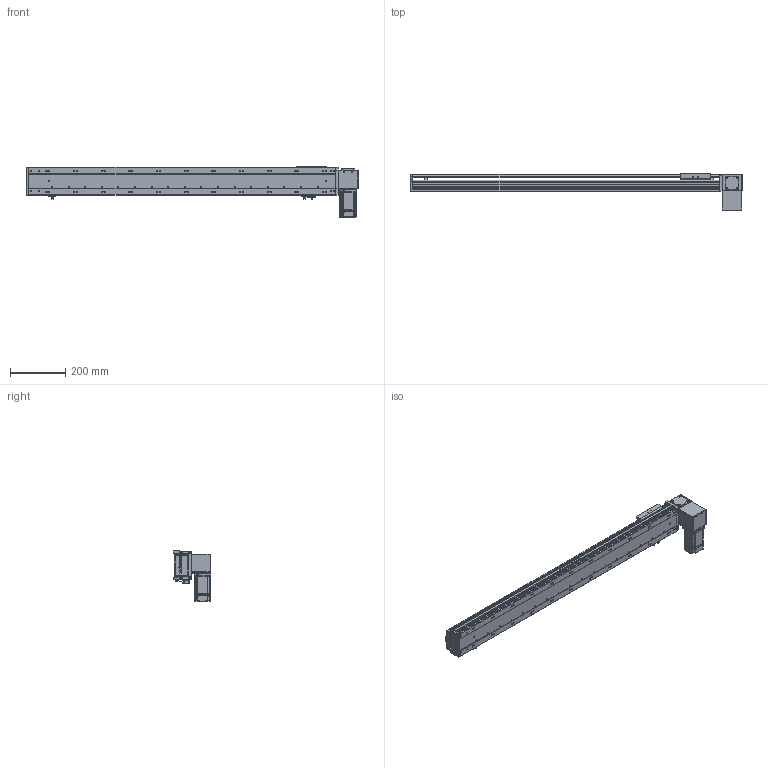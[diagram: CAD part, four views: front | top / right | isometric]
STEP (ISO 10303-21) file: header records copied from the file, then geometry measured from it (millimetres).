
FILE_DESCRIPTION (( 'STEP AP203' ), '1' );
FILE_NAME ('RY100-T-300-DL.SLDASM_900.step', '2024-04-24T01:11:21', ( '盈信电脑' ), ( '东莞市道滘镇水果街19号' ), 'SwSTEP 2.0', 'SolidWorks 2016', '' );
FILE_SCHEMA (( 'CONFIG_CONTROL_DESIGN' ));
Length unit declared in the file: millimetre
Products named in the file (16): RY100-T粣創揤踡裔; RY100-T翋肮祭謫裔啣; RY80-T肮祭謫狟殏俋欶; RY100-T-300-RK倰第奻裔_900; RY100-T-300-DL.SLDASM_900; RY100俋离覜茼え; 滅袉蝶18-10; RY100綴裔啣; RY100-T左右折电机安装板; RY100-T肮祭謫臏賑輸; 覜茼ん672; RY100-T翋肮祭謫裔啣2; 1; RY100-T翋肮祭謫粣; RY100-T肮祭謫翋盓傅釱; RY100-T-300-RK倰第菁釱_900
Assembly tree (18 placements, depth 2):
  RY100-T-300-DL.SLDASM_900
    RY100-T-300-RK倰第菁釱_900
    RY100-T-300-RK倰第奻裔_900
    RY100-T肮祭謫臏賑輸
    RY100綴裔啣
    覜茼ん672  x3
    RY100俋离覜茼え
    RY100-T翋肮祭謫粣
    RY100-T肮祭謫翋盓傅釱
    滅袉蝶18-10  x2
    RY100-T翋肮祭謫裔啣
    1
    RY100-T左右折电机安装板
    RY100-T粣創揤踡裔
    RY100-T翋肮祭謫裔啣2
    RY80-T肮祭謫狟殏俋欶
Bounding box: 1200 x 135.5 x 182.5 mm (x, y, z)
Volume: 2477477.1 mm3; surface area: 1017131.4 mm2
Topology: 18 solids, 18 shells, 2311 faces, 6439 edges, 4183 vertices
Faces by surface type: plane 1227, cylinder 859, cone 147, bspline 78
Entity records: 75232 total; most frequent: CARTESIAN_POINT 18420, ORIENTED_EDGE 11710, DIRECTION 11135, EDGE_CURVE 5855, VERTEX_POINT 3851, LINE 3717, VECTOR 3717, AXIS2_PLACEMENT_3D 3709
